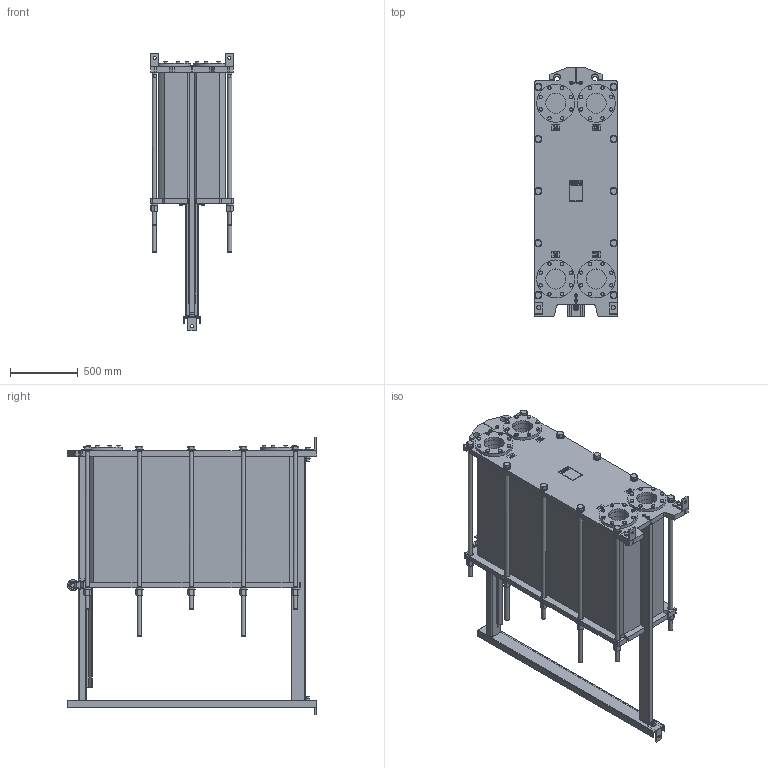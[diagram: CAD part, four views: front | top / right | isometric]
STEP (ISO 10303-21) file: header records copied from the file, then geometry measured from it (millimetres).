
FILE_DESCRIPTION (( 'STEP AP214' ), '1' );
FILE_NAME ('ÏÒ SX150 Óçêèé ðåä 9 íîâûé ðîëèê2+Alfa ñèãìà 141...200.STEP', '2021-04-18T11:05:00', ( '' ), ( '' ), 'SwSTEP 2.0', 'SolidWorks 2018', '' );
FILE_SCHEMA (( 'AUTOMOTIVE_DESIGN' ));
Length unit declared in the file: millimetre
Products named in the file (3): ÏÒ SX150 Óçêèé ðåä 9 íîâûé ðîëèê2+Alfa ñèãìà1; ÏÒ SX150 Óçêèé ðåä 9 íîâûé ðîëèê2+Alfa ñèãìà2 141...200; ÏÒ SX150 Óçêèé ðåä 9 íîâûé ðîëèê2+Alfa ñèãìà 141...200
Assembly tree (2 placements, depth 2):
  ÏÒ SX150 Óçêèé ðåä 9 íîâûé ðîëèê2+Alfa ñèãìà 141...200
    ÏÒ SX150 Óçêèé ðåä 9 íîâûé ðîëèê2+Alfa ñèãìà2 141...200
    ÏÒ SX150 Óçêèé ðåä 9 íîâûé ðîëèê2+Alfa ñèãìà1
Bounding box: 610.97 x 1834 x 2045 mm (x, y, z)
Volume: 743295023.3 mm3; surface area: 15857763 mm2
Topology: 54 solids, 65 shells, 3227 faces, 7602 edges, 4809 vertices
Faces by surface type: plane 1543, cone 863, cylinder 497, bspline 275, torus 49
Full cylindrical faces by diameter (mm): 12 x24, 13 x16, 14 x8, 16 x32, 17 x32, 18 x32, 20 x9, 22 x9, 23 x5, 24 x16, 30 x20, 32 x20, 37 x5, 41 x20, 55 x20, 59.5 x1, 60.5 x1, 80 x1, 148 x12, 148.01 x4, 216 x4, 280 x4
Entity records: 132903 total; most frequent: CARTESIAN_POINT 29783, ORIENTED_EDGE 13728, DIRECTION 12884, EDGE_CURVE 6864, AXIS2_PLACEMENT_3D 4851, VERTEX_POINT 4660, EDGE_LOOP 4286, FACE_OUTER_BOUND 3571
